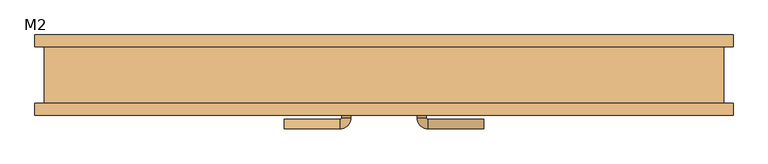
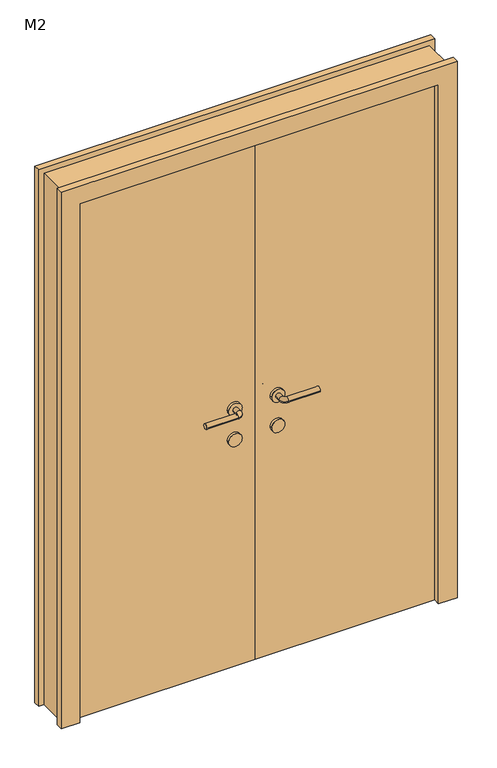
"""IFC4 building model written with IfcOpenShell, lengths in millimetres: door geometry, 双面嵌板木门 1 : M2."""

from ifc_helpers import new_model, si_unit, point, frame, frame_2d, origin, origin_with_axes, place, context, project, spatial, polyline, circle_curve, ellipse_curve, trimmed, segment, composite_curve, outline, extrude, source, transform, mapped, element, save
from ifc_brep_helpers import plane_surface, cylinder_surface, revolved_surface, advanced_brep


def m2_7e48c0ad(model_context):
    return source(origin(), model_context, "Body", "SolidModel", [
        extrude(outline(composite_curve([segment(trimmed(circle_curve(frame_2d((900.0, 80.0)), 25.0), [point((900.0, 105.0))], [point((900.0, 55.0))], False, "CARTESIAN"), True, "CONTINUOUS"), segment(trimmed(circle_curve(frame_2d((900.0, 80.0)), 25.0), [point((900.0, 55.0))], [point((900.0, 105.0))], False, "CARTESIAN"), True, "CONTINUOUS")], self_intersect=False)), frame((0.0, -70.0, 0.0), z_axis=(0.0, 1.0, 0.0), x_axis=(0.0, 0.0, 1.0)), (0.0, 0.0, 1.0), 10.0),
        extrude(outline(composite_curve([segment(trimmed(circle_curve(frame_2d((900.0, 80.0)), 25.0), [point((900.0, 105.0))], [point((900.0, 55.0))], False, "CARTESIAN"), True, "CONTINUOUS"), segment(trimmed(circle_curve(frame_2d((900.0, 80.0)), 25.0), [point((900.0, 55.0))], [point((900.0, 105.0))], False, "CARTESIAN"), True, "CONTINUOUS")], self_intersect=False)), frame((0.0, -20.0, 0.0), z_axis=(0.0, 1.0, 0.0), x_axis=(0.0, 0.0, 1.0)), (0.0, 0.0, 1.0), 10.0),
        advanced_brep(
        [(70.0, -70.0, 1020.0), (90.0, -70.0, 1020.0), (90.0, -90.6133551, 1020.0), (70.0, -90.6133551, 1020.0), (211.580964, -113.580964, 1020.0), (211.580964, -93.580964, 1020.0), (92.9676089, -93.580964, 1020.0), (92.9676089, -113.580964, 1020.0)],
        [
            (0, 1, circle_curve(frame((80.0, -70.0, 1020.0), z_axis=(0.0, 1.0, 0.0), x_axis=(1.0, 0.0, 0.0)), 10.0)),
            (1, 0, circle_curve(frame((80.0, -70.0, 1020.0), z_axis=(0.0, 1.0, 0.0), x_axis=(1.0, 0.0, 0.0)), 10.0)),
            (1, 2),
            (2, 3, circle_curve(frame((80.0, -90.6133551, 1020.0), z_axis=(0.0, 1.0, 0.0), x_axis=(1.0, 0.0, 0.0)), 10.0)),
            (3, 0),
            (3, 2, circle_curve(frame((80.0, -90.6133551, 1020.0), z_axis=(0.0, 1.0, 0.0), x_axis=(1.0, 0.0, 0.0)), 10.0)),
            (4, 5, circle_curve(frame((211.580964, -103.580964, 1020.0), z_axis=(1.0, 0.0, 0.0), x_axis=(0.0, 1.0, 0.0)), 10.0)),
            (5, 4, circle_curve(frame((211.580964, -103.580964, 1020.0), z_axis=(1.0, 0.0, 0.0), x_axis=(0.0, 1.0, 0.0)), 10.0)),
            (6, 2, circle_curve(frame((92.9676089, -90.6133551, 1020.0), z_axis=(0.0, 0.0, -1.0), x_axis=(-1.0, 0.0, 0.0)), 2.9676089)),
            (3, 7, circle_curve(frame((92.9676089, -90.6133551, 1020.0), z_axis=(0.0, 0.0, 1.0), x_axis=(-1.0, 0.0, 0.0)), 22.9676089)),
            (7, 6, circle_curve(frame((92.9676089, -103.580964, 1020.0), z_axis=(-1.0, 0.0, 0.0), x_axis=(0.0, 1.0, 0.0)), 10.0)),
            (6, 7, circle_curve(frame((92.9676089, -103.580964, 1020.0), z_axis=(-1.0, 0.0, 0.0), x_axis=(0.0, 1.0, 0.0)), 10.0)),
            (7, 4),
            (5, 6),
        ],
        [
            plane_surface(frame((80.0, -70.0, 900.0), z_axis=(0.0, 1.0, 0.0), x_axis=(0.0, 0.0, 1.0))),
            cylinder_surface(frame((80.0, -70.0, 1020.0), z_axis=(0.0, 1.0, 0.0), x_axis=(1.0, 0.0, 0.0)), 10.0),
            plane_surface(frame((211.580964, -103.580964, 900.0), z_axis=(1.0, 0.0, 0.0), x_axis=(0.0, 0.0, 1.0))),
            revolved_surface(trimmed(ellipse_curve(frame((80.0, -90.6133551, 1020.0), z_axis=(0.0, 1.0, 0.0), x_axis=(1.0, 0.0, 0.0)), 10.0, 10.0), [point((70.0, -90.6133551, 1020.0))], [point((90.0, -90.6133551, 1020.0))], True, "CARTESIAN"), (92.9676089, -90.6133551, 900.0), (0.0, 0.0, 1.0)),
            revolved_surface(trimmed(ellipse_curve(frame((80.0, -90.6133551, 1020.0), z_axis=(0.0, 1.0, 0.0), x_axis=(1.0, 0.0, 0.0)), 10.0, 10.0), [point((90.0, -90.6133551, 1020.0))], [point((70.0, -90.6133551, 1020.0))], True, "CARTESIAN"), (92.9676089, -90.6133551, 900.0), (0.0, 0.0, 1.0)),
            cylinder_surface(frame((92.9676089, -103.580964, 1020.0), z_axis=(-1.0, 0.0, 0.0), x_axis=(0.0, 1.0, 0.0)), 10.0),
        ],
        [
            (0, [[1, 2]]),
            (1, [[-2, 3, 4, 5]]),
            (1, [[-1, -5, 6, -3]]),
            (2, [[7, 8]]),
            (3, [[9, -6, 10, 11]]),
            (4, [[-10, -4, -9, 12]]),
            (5, [[-11, 13, -8, 14]]),
            (5, [[-12, -14, -7, -13]]),
        ],
    ),
        extrude(outline(composite_curve([segment(trimmed(circle_curve(frame_2d((1020.0, 80.0)), 25.0), [point((1020.0, 105.0))], [point((1020.0, 55.0))], False, "CARTESIAN"), True, "CONTINUOUS"), segment(trimmed(circle_curve(frame_2d((1020.0, 80.0)), 25.0), [point((1020.0, 55.0))], [point((1020.0, 105.0))], False, "CARTESIAN"), True, "CONTINUOUS")], self_intersect=False)), frame((0.0, -70.0, 0.0), z_axis=(0.0, 1.0, 0.0), x_axis=(0.0, 0.0, 1.0)), (0.0, 0.0, 1.0), 10.0),
        advanced_brep(
        [(90.0, -10.0, 1020.0), (70.0, -10.0, 1020.0), (90.0, 10.613355, 1020.0), (70.0, 10.613355, 1020.0), (211.580964, 13.580964, 1020.0), (211.580964, 33.580964, 1020.0), (92.9676089, 33.580964, 1020.0), (92.9676089, 13.580964, 1020.0)],
        [
            (0, 1, circle_curve(frame((80.0, -10.0, 1020.0), z_axis=(0.0, -1.0, 0.0), x_axis=(-1.0, 0.0, 0.0)), 10.0)),
            (1, 0, circle_curve(frame((80.0, -10.0, 1020.0), z_axis=(0.0, -1.0, 0.0), x_axis=(-1.0, 0.0, 0.0)), 10.0)),
            (0, 2),
            (2, 3, circle_curve(frame((80.0, 10.613355, 1020.0), z_axis=(0.0, -1.0, 0.0), x_axis=(-1.0, 0.0, 0.0)), 10.0)),
            (3, 1),
            (3, 2, circle_curve(frame((80.0, 10.613355, 1020.0), z_axis=(0.0, -1.0, 0.0), x_axis=(-1.0, 0.0, 0.0)), 10.0)),
            (4, 5, circle_curve(frame((211.580964, 23.580964, 1020.0), z_axis=(1.0, 0.0, 0.0), x_axis=(0.0, 1.0, 0.0)), 10.0)),
            (5, 4, circle_curve(frame((211.580964, 23.580964, 1020.0), z_axis=(1.0, 0.0, 0.0), x_axis=(0.0, 1.0, 0.0)), 10.0)),
            (6, 3, circle_curve(frame((92.9676089, 10.613355, 1020.0), z_axis=(0.0, 0.0, 1.0), x_axis=(-1.0, 0.0, 0.0)), 22.9676089)),
            (2, 7, circle_curve(frame((92.9676089, 10.613355, 1020.0), z_axis=(0.0, 0.0, -1.0), x_axis=(-1.0, 0.0, 0.0)), 2.9676089)),
            (7, 6, circle_curve(frame((92.9676089, 23.580964, 1020.0), z_axis=(-1.0, 0.0, 0.0), x_axis=(0.0, 1.0, 0.0)), 10.0)),
            (6, 7, circle_curve(frame((92.9676089, 23.580964, 1020.0), z_axis=(-1.0, 0.0, 0.0), x_axis=(0.0, 1.0, 0.0)), 10.0)),
            (7, 4),
            (5, 6),
        ],
        [
            plane_surface(frame((80.0, -10.0, 900.0), z_axis=(0.0, -1.0, 0.0), x_axis=(0.0, 0.0, 1.0))),
            cylinder_surface(frame((80.0, -10.0, 1020.0), z_axis=(0.0, -1.0, 0.0), x_axis=(-1.0, 0.0, 0.0)), 10.0),
            plane_surface(frame((211.580964, 23.580964, 900.0), z_axis=(1.0, 0.0, 0.0), x_axis=(0.0, 0.0, 1.0))),
            revolved_surface(trimmed(ellipse_curve(frame((80.0, 10.613355, 1020.0), z_axis=(0.0, -1.0, 0.0), x_axis=(-1.0, 0.0, 0.0)), 10.0, 10.0), [point((90.0, 10.613355, 1020.0))], [point((70.0, 10.613355, 1020.0))], True, "CARTESIAN"), (92.9676089, 10.613355, 900.0), (0.0, 0.0, -1.0)),
            revolved_surface(trimmed(ellipse_curve(frame((80.0, 10.613355, 1020.0), z_axis=(0.0, -1.0, 0.0), x_axis=(-1.0, 0.0, 0.0)), 10.0, 10.0), [point((70.0, 10.613355, 1020.0))], [point((90.0, 10.613355, 1020.0))], True, "CARTESIAN"), (92.9676089, 10.613355, 900.0), (0.0, 0.0, -1.0)),
            cylinder_surface(frame((92.9676089, 23.580964, 1020.0), z_axis=(-1.0, 0.0, 0.0), x_axis=(0.0, 1.0, 0.0)), 10.0),
        ],
        [
            (0, [[1, 2]]),
            (1, [[-1, 3, 4, 5]]),
            (1, [[-2, -5, 6, -3]]),
            (2, [[7, 8]]),
            (3, [[9, -4, 10, 11]]),
            (4, [[-10, -6, -9, 12]]),
            (5, [[-11, 13, -8, 14]]),
            (5, [[-12, -14, -7, -13]]),
        ],
    ),
        extrude(outline(composite_curve([segment(trimmed(circle_curve(frame_2d((1020.0, 80.0)), 25.0), [point((1020.0, 105.0))], [point((1020.0, 55.0))], False, "CARTESIAN"), True, "CONTINUOUS"), segment(trimmed(circle_curve(frame_2d((1020.0, 80.0)), 25.0), [point((1020.0, 55.0))], [point((1020.0, 105.0))], False, "CARTESIAN"), True, "CONTINUOUS")], self_intersect=False)), frame((0.0, -20.0, 0.0), z_axis=(0.0, 1.0, 0.0), x_axis=(0.0, 0.0, 1.0)), (0.0, 0.0, 1.0), 10.0),
        extrude(outline(composite_curve([segment(trimmed(circle_curve(frame_2d((900.0, -80.0)), 25.0), [point((900.0, -105.0))], [point((900.0, -55.0))], False, "CARTESIAN"), True, "CONTINUOUS"), segment(trimmed(circle_curve(frame_2d((900.0, -80.0)), 25.0), [point((900.0, -55.0))], [point((900.0, -105.0))], False, "CARTESIAN"), True, "CONTINUOUS")], self_intersect=False)), frame((0.0, -70.0, 0.0), z_axis=(0.0, 1.0, 0.0), x_axis=(0.0, 0.0, 1.0)), (0.0, 0.0, 1.0), 10.0),
        extrude(outline(composite_curve([segment(trimmed(circle_curve(frame_2d((900.0, -80.0)), 25.0), [point((900.0, -105.0))], [point((900.0, -55.0))], False, "CARTESIAN"), True, "CONTINUOUS"), segment(trimmed(circle_curve(frame_2d((900.0, -80.0)), 25.0), [point((900.0, -55.0))], [point((900.0, -105.0))], False, "CARTESIAN"), True, "CONTINUOUS")], self_intersect=False)), frame((0.0, -20.0, 0.0), z_axis=(0.0, 1.0, 0.0), x_axis=(0.0, 0.0, 1.0)), (0.0, 0.0, 1.0), 10.0),
        advanced_brep(
        [(-70.0, -70.0, 1020.0), (-90.0, -70.0, 1020.0), (-70.0, -90.6133551, 1020.0), (-90.0, -90.6133551, 1020.0), (-211.580964, -113.580964, 1020.0), (-211.580964, -93.580964, 1020.0), (-92.9676089, -93.580964, 1020.0), (-92.9676089, -113.580964, 1020.0)],
        [
            (0, 1, circle_curve(frame((-80.0, -70.0, 1020.0), z_axis=(0.0, 1.0, 0.0), x_axis=(-1.0, 0.0, 0.0)), 10.0)),
            (1, 0, circle_curve(frame((-80.0, -70.0, 1020.0), z_axis=(0.0, 1.0, 0.0), x_axis=(-1.0, 0.0, 0.0)), 10.0)),
            (0, 2),
            (2, 3, circle_curve(frame((-80.0, -90.6133551, 1020.0), z_axis=(0.0, 1.0, 0.0), x_axis=(-1.0, 0.0, 0.0)), 10.0)),
            (3, 1),
            (3, 2, circle_curve(frame((-80.0, -90.6133551, 1020.0), z_axis=(0.0, 1.0, 0.0), x_axis=(-1.0, 0.0, 0.0)), 10.0)),
            (4, 5, circle_curve(frame((-211.580964, -103.580964, 1020.0), z_axis=(-1.0, 0.0, 0.0), x_axis=(0.0, 1.0, 0.0)), 10.0)),
            (5, 4, circle_curve(frame((-211.580964, -103.580964, 1020.0), z_axis=(-1.0, 0.0, 0.0), x_axis=(0.0, 1.0, 0.0)), 10.0)),
            (6, 7, circle_curve(frame((-92.9676089, -103.580964, 1020.0), z_axis=(1.0, 0.0, 0.0), x_axis=(0.0, 1.0, 0.0)), 10.0)),
            (7, 2, circle_curve(frame((-92.9676089, -90.6133551, 1020.0), z_axis=(0.0, 0.0, 1.0), x_axis=(1.0, 0.0, 0.0)), 22.9676089)),
            (3, 6, circle_curve(frame((-92.9676089, -90.6133551, 1020.0), z_axis=(0.0, 0.0, -1.0), x_axis=(1.0, 0.0, 0.0)), 2.9676089)),
            (7, 6, circle_curve(frame((-92.9676089, -103.580964, 1020.0), z_axis=(1.0, 0.0, 0.0), x_axis=(0.0, 1.0, 0.0)), 10.0)),
            (6, 5),
            (4, 7),
        ],
        [
            plane_surface(frame((-80.0, -70.0, 900.0), z_axis=(0.0, 1.0, 0.0), x_axis=(0.0, 0.0, 1.0))),
            cylinder_surface(frame((-80.0, -70.0, 1020.0), z_axis=(0.0, 1.0, 0.0), x_axis=(-1.0, 0.0, 0.0)), 10.0),
            plane_surface(frame((-211.580964, -103.580964, 900.0), z_axis=(-1.0, 0.0, 0.0), x_axis=(0.0, 0.0, 1.0))),
            revolved_surface(trimmed(ellipse_curve(frame((-80.0, -90.6133551, 1020.0), z_axis=(0.0, -1.0, 0.0), x_axis=(-1.0, 0.0, 0.0)), 10.0, 10.0), [point((-70.0, -90.6133551, 1020.0))], [point((-90.0, -90.6133551, 1020.0))], True, "CARTESIAN"), (-92.9676089, -90.6133551, 900.0), (0.0, 0.0, 1.0)),
            revolved_surface(trimmed(ellipse_curve(frame((-80.0, -90.6133551, 1020.0), z_axis=(0.0, -1.0, 0.0), x_axis=(-1.0, 0.0, 0.0)), 10.0, 10.0), [point((-90.0, -90.6133551, 1020.0))], [point((-70.0, -90.6133551, 1020.0))], True, "CARTESIAN"), (-92.9676089, -90.6133551, 900.0), (0.0, 0.0, 1.0)),
            cylinder_surface(frame((-92.9676089, -103.580964, 1020.0), z_axis=(1.0, 0.0, 0.0), x_axis=(0.0, 1.0, 0.0)), 10.0),
        ],
        [
            (0, [[1, 2]]),
            (1, [[3, 4, 5, -1]]),
            (1, [[-5, 6, -3, -2]]),
            (2, [[7, 8]]),
            (3, [[9, 10, -6, 11]]),
            (4, [[12, -11, -4, -10]]),
            (5, [[13, -7, 14, -9]]),
            (5, [[-14, -8, -13, -12]]),
        ],
    ),
        extrude(outline(composite_curve([segment(trimmed(circle_curve(frame_2d((1020.0, -80.0)), 25.0), [point((1020.0, -105.0))], [point((1020.0, -55.0))], False, "CARTESIAN"), True, "CONTINUOUS"), segment(trimmed(circle_curve(frame_2d((1020.0, -80.0)), 25.0), [point((1020.0, -55.0))], [point((1020.0, -105.0))], False, "CARTESIAN"), True, "CONTINUOUS")], self_intersect=False)), frame((0.0, -70.0, 0.0), z_axis=(0.0, 1.0, 0.0), x_axis=(0.0, 0.0, 1.0)), (0.0, 0.0, 1.0), 10.0),
        advanced_brep(
        [(-90.0, -10.0, 1020.0), (-70.0, -10.0, 1020.0), (-70.0, 10.613355, 1020.0), (-90.0, 10.613355, 1020.0), (-211.580964, 13.580964, 1020.0), (-211.580964, 33.580964, 1020.0), (-92.9676089, 33.580964, 1020.0), (-92.9676089, 13.580964, 1020.0)],
        [
            (0, 1, circle_curve(frame((-80.0, -10.0, 1020.0), z_axis=(0.0, -1.0, 0.0), x_axis=(1.0, 0.0, 0.0)), 10.0)),
            (1, 0, circle_curve(frame((-80.0, -10.0, 1020.0), z_axis=(0.0, -1.0, 0.0), x_axis=(1.0, 0.0, 0.0)), 10.0)),
            (1, 2),
            (2, 3, circle_curve(frame((-80.0, 10.613355, 1020.0), z_axis=(0.0, -1.0, 0.0), x_axis=(1.0, 0.0, 0.0)), 10.0)),
            (3, 0),
            (3, 2, circle_curve(frame((-80.0, 10.613355, 1020.0), z_axis=(0.0, -1.0, 0.0), x_axis=(1.0, 0.0, 0.0)), 10.0)),
            (4, 5, circle_curve(frame((-211.580964, 23.580964, 1020.0), z_axis=(-1.0, 0.0, 0.0), x_axis=(0.0, 1.0, 0.0)), 10.0)),
            (5, 4, circle_curve(frame((-211.580964, 23.580964, 1020.0), z_axis=(-1.0, 0.0, 0.0), x_axis=(0.0, 1.0, 0.0)), 10.0)),
            (6, 7, circle_curve(frame((-92.9676089, 23.580964, 1020.0), z_axis=(1.0, 0.0, 0.0), x_axis=(0.0, 1.0, 0.0)), 10.0)),
            (7, 3, circle_curve(frame((-92.9676089, 10.613355, 1020.0), z_axis=(0.0, 0.0, -1.0), x_axis=(1.0, 0.0, 0.0)), 2.9676089)),
            (2, 6, circle_curve(frame((-92.9676089, 10.613355, 1020.0), z_axis=(0.0, 0.0, 1.0), x_axis=(1.0, 0.0, 0.0)), 22.9676089)),
            (7, 6, circle_curve(frame((-92.9676089, 23.580964, 1020.0), z_axis=(1.0, 0.0, 0.0), x_axis=(0.0, 1.0, 0.0)), 10.0)),
            (6, 5),
            (4, 7),
        ],
        [
            plane_surface(frame((-80.0, -10.0, 900.0), z_axis=(0.0, -1.0, 0.0), x_axis=(0.0, 0.0, 1.0))),
            cylinder_surface(frame((-80.0, -10.0, 1020.0), z_axis=(0.0, -1.0, 0.0), x_axis=(1.0, 0.0, 0.0)), 10.0),
            plane_surface(frame((-211.580964, 23.580964, 900.0), z_axis=(-1.0, 0.0, 0.0), x_axis=(0.0, 0.0, 1.0))),
            revolved_surface(trimmed(ellipse_curve(frame((-80.0, 10.613355, 1020.0), z_axis=(0.0, 1.0, 0.0), x_axis=(1.0, 0.0, 0.0)), 10.0, 10.0), [point((-90.0, 10.613355, 1020.0))], [point((-70.0, 10.613355, 1020.0))], True, "CARTESIAN"), (-92.9676089, 10.613355, 900.0), (0.0, 0.0, -1.0)),
            revolved_surface(trimmed(ellipse_curve(frame((-80.0, 10.613355, 1020.0), z_axis=(0.0, 1.0, 0.0), x_axis=(1.0, 0.0, 0.0)), 10.0, 10.0), [point((-70.0, 10.613355, 1020.0))], [point((-90.0, 10.613355, 1020.0))], True, "CARTESIAN"), (-92.9676089, 10.613355, 900.0), (0.0, 0.0, -1.0)),
            cylinder_surface(frame((-92.9676089, 23.580964, 1020.0), z_axis=(1.0, 0.0, 0.0), x_axis=(0.0, 1.0, 0.0)), 10.0),
        ],
        [
            (0, [[1, 2]]),
            (1, [[3, 4, 5, -2]]),
            (1, [[-5, 6, -3, -1]]),
            (2, [[7, 8]]),
            (3, [[9, 10, -4, 11]]),
            (4, [[12, -11, -6, -10]]),
            (5, [[13, -7, 14, -9]]),
            (5, [[-14, -8, -13, -12]]),
        ],
    ),
        extrude(outline(composite_curve([segment(trimmed(circle_curve(frame_2d((1020.0, -80.0)), 25.0), [point((1020.0, -105.0))], [point((1020.0, -55.0))], False, "CARTESIAN"), True, "CONTINUOUS"), segment(trimmed(circle_curve(frame_2d((1020.0, -80.0)), 25.0), [point((1020.0, -55.0))], [point((1020.0, -105.0))], False, "CARTESIAN"), True, "CONTINUOUS")], self_intersect=False)), frame((0.0, -20.0, 0.0), z_axis=(0.0, 1.0, 0.0), x_axis=(0.0, 0.0, 1.0)), (0.0, 0.0, 1.0), 10.0),
        extrude(outline(polyline([(0.0, 740.0), (2120.0, 740.0), (2120.0, -740.0), (0.0, -740.0), (0.0, -670.0), (2050.0, -670.0), (2050.0, 670.0), (0.0, 670.0), (0.0, 740.0)])), frame((0.0, -85.0, 0.0), z_axis=(0.0, 1.0, 0.0), x_axis=(0.0, 0.0, 1.0)), (0.0, 0.0, 1.0), 25.0),
        extrude(outline(polyline([(2120.0, 740.0), (2120.0, -740.0), (0.0, -740.0), (0.0, -670.0), (2050.0, -670.0), (2050.0, 670.0), (0.0, 670.0), (0.0, 740.0), (2120.0, 740.0)])), frame((0.0, 60.0, 0.0), z_axis=(0.0, 1.0, 0.0), x_axis=(0.0, 0.0, 1.0)), (0.0, 0.0, 1.0), 25.0),
        extrude(outline(polyline([(670.0, -20.0), (670.0, -60.0), (0.0, -60.0), (0.0, -20.0), (670.0, -20.0)])), origin_with_axes(), (0.0, 0.0, 1.0), 2050.0),
        extrude(outline(polyline([(0.0, -20.0), (0.0, -60.0), (-670.0, -60.0), (-670.0, -20.0), (0.0, -20.0)])), origin_with_axes(), (0.0, 0.0, 1.0), 2050.0),
        extrude(outline(polyline([(2100.0, -720.0), (0.0, -720.0), (0.0, -670.0), (2050.0, -670.0), (2050.0, 670.0), (0.0, 670.0), (0.0, 720.0), (2100.0, 720.0), (2100.0, -720.0)])), frame((0.0, -60.0, 0.0), z_axis=(0.0, 1.0, 0.0), x_axis=(0.0, 0.0, 1.0)), (0.0, 0.0, 1.0), 120.0),
    ])


if __name__ == "__main__":
    model = new_model("IFC4")
    model_context = context("Model", 3, world=origin())
    ifc_project = project(units=[si_unit("LENGTHUNIT", "METRE", prefix="MILLI")], contexts=[model_context])
    site = spatial("IfcSite", under=ifc_project)
    building = spatial("IfcBuilding", under=site)
    placement = place(None, origin())
    m2_shape = m2_7e48c0ad(model_context)
    element("IfcDoor", 1, ObjectType="双面嵌板木门 1 : M2", at=placement, inside=building, context=model_context, shape_type="MappedRepresentation", body=[
        mapped(m2_shape, transform((0.0, 0.0, 0.0), x_axis=(1.0, 0.0, 0.0), y_axis=(0.0, 1.0, 0.0), z_axis=(0.0, 0.0, 1.0))),
    ])
    save(model, "model.ifc")
